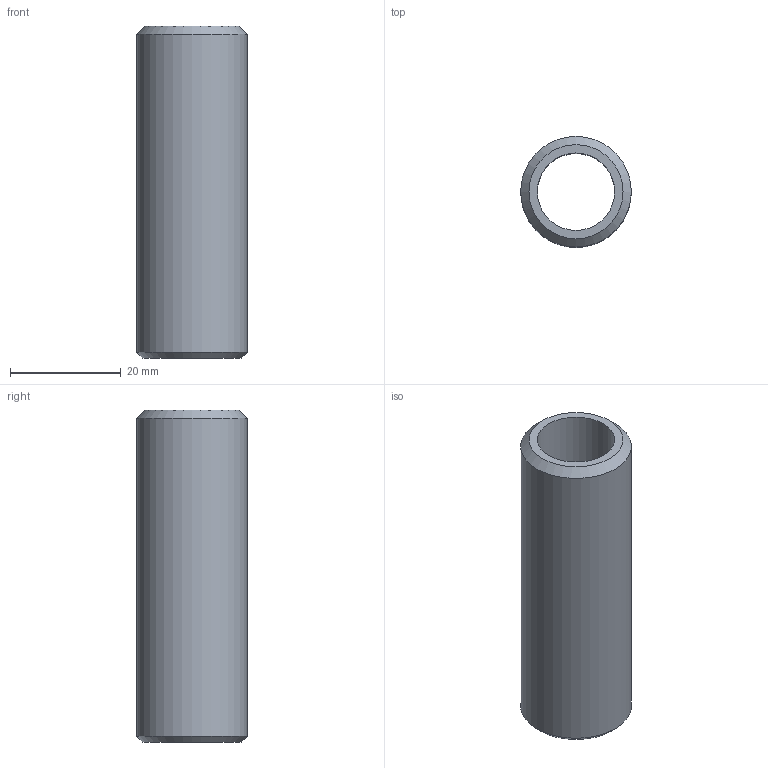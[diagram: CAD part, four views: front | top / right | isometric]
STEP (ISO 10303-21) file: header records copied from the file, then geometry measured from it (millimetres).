
FILE_DESCRIPTION(/* description */ ('','CAx-IF Rec.Pracs.---Representation and Presentation of Product Manufacturing Information (PMI)---4.0---2014-10-13'),/* implementation_level */ '2;1');
FILE_NAME(/* name */ 'rod60.step',/* time_stamp */ '2025-03-18T20:43:38+01:00',/* author */ (''),/* organization */ (''),/* preprocessor_version */ 'ST-DEVELOPER v20',/* originating_system */ 'Autodesk Translation Framework v13.20.0.188',/* authorisation */ '');
FILE_SCHEMA (('AP242_MANAGED_MODEL_BASED_3D_ENGINEERING_MIM_LF { 1 0 10303 442 1 1 4 }'));
Length unit declared in the file: millimetre
Products named in the file (1): rod
Bounding box: 20 x 20 x 60 mm (x, y, z)
Volume: 9515.8 mm3; surface area: 6633 mm2
Topology: 1 solids, 1 shells, 6 faces, 10 edges, 6 vertices
Faces by surface type: cylinder 2, cone 2, plane 2
Full cylindrical faces by diameter (mm): 14 x1, 20 x1
Entity records: 181 total; most frequent: DIRECTION 30, CARTESIAN_POINT 23, ORIENTED_EDGE 20, AXIS2_PLACEMENT_3D 13, EDGE_CURVE 10, EDGE_LOOP 8, FACE_OUTER_BOUND 6, CIRCLE 6
